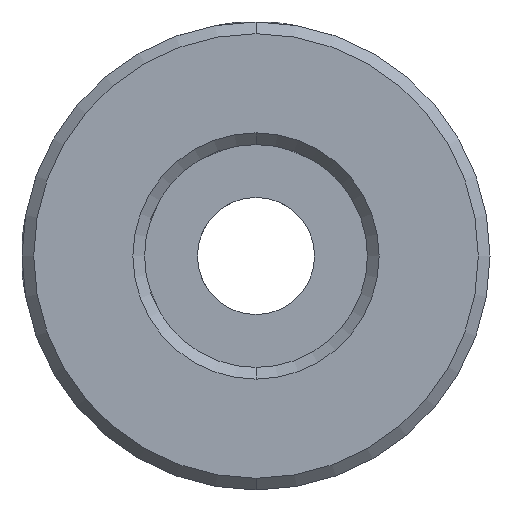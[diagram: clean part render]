
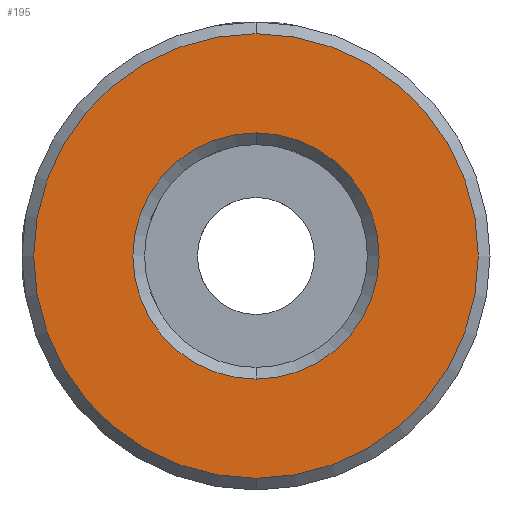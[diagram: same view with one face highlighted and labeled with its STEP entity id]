
A CAD part, front view. The second image highlights one B-rep face of the part: STEP entity #195.
In plain terms, the highlighted planar face has unit normal (0, -1, 0).
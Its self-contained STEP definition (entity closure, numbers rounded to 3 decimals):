
#51 = DIRECTION ( 'NONE',  ( 0., 1., 0. ) ) ;
#84 = ORIENTED_EDGE ( 'NONE', *, *, #1464, .T. ) ;
#145 = ORIENTED_EDGE ( 'NONE', *, *, #180, .T. ) ;
#180 = EDGE_CURVE ( 'NONE', #2382, #1536, #706, .T. ) ;
#195 = ADVANCED_FACE ( 'NONE', ( #1961, #1726 ), #255, .F. ) ;
#255 = PLANE ( 'NONE',  #2112 ) ;
#376 = CIRCLE ( 'NONE', #3254, 5.263 ) ;
#410 = CARTESIAN_POINT ( 'NONE',  ( -10.188, -0.277, -5.217 ) ) ;
#546 = CARTESIAN_POINT ( 'NONE',  ( -10.188, -0.277, 0.046 ) ) ;
#603 = DIRECTION ( 'NONE',  ( 0., 0., 1. ) ) ;
#660 = CIRCLE ( 'NONE', #2845, 9.5 ) ;
#706 = CIRCLE ( 'NONE', #2769, 5.263 ) ;
#737 = CARTESIAN_POINT ( 'NONE',  ( -10.188, -0.277, 9.546 ) ) ;
#941 = EDGE_LOOP ( 'NONE', ( #2287, #1858 ) ) ;
#955 = EDGE_CURVE ( 'NONE', #1695, #1568, #660, .T. ) ;
#1185 = DIRECTION ( 'NONE',  ( 0., -1., 0. ) ) ;
#1464 = EDGE_CURVE ( 'NONE', #1536, #2382, #376, .T. ) ;
#1503 = EDGE_LOOP ( 'NONE', ( #84, #145 ) ) ;
#1536 = VERTEX_POINT ( 'NONE', #410 ) ;
#1566 = CARTESIAN_POINT ( 'NONE',  ( -10.188, -0.277, 5.308 ) ) ;
#1568 = VERTEX_POINT ( 'NONE', #737 ) ;
#1695 = VERTEX_POINT ( 'NONE', #2265 ) ;
#1704 = DIRECTION ( 'NONE',  ( 0., 0., 1. ) ) ;
#1726 = FACE_BOUND ( 'NONE', #1503, .T. ) ;
#1742 = DIRECTION ( 'NONE',  ( 0., 1., 0. ) ) ;
#1799 = EDGE_CURVE ( 'NONE', #1568, #1695, #2890, .T. ) ;
#1858 = ORIENTED_EDGE ( 'NONE', *, *, #955, .T. ) ;
#1955 = DIRECTION ( 'NONE',  ( 0., -1., 0. ) ) ;
#1961 = FACE_OUTER_BOUND ( 'NONE', #941, .T. ) ;
#2062 = CARTESIAN_POINT ( 'NONE',  ( -10.188, -0.277, 0.046 ) ) ;
#2112 = AXIS2_PLACEMENT_3D ( 'NONE', #546, #2233, #1704 ) ;
#2228 = CARTESIAN_POINT ( 'NONE',  ( -10.188, -0.277, 0.046 ) ) ;
#2233 = DIRECTION ( 'NONE',  ( 0., 1., 0. ) ) ;
#2249 = DIRECTION ( 'NONE',  ( 0., 0., 1. ) ) ;
#2265 = CARTESIAN_POINT ( 'NONE',  ( -10.188, -0.277, -9.454 ) ) ;
#2287 = ORIENTED_EDGE ( 'NONE', *, *, #1799, .T. ) ;
#2382 = VERTEX_POINT ( 'NONE', #1566 ) ;
#2503 = CARTESIAN_POINT ( 'NONE',  ( -10.188, -0.277, 0.046 ) ) ;
#2572 = DIRECTION ( 'NONE',  ( 0., 0., 1. ) ) ;
#2644 = CARTESIAN_POINT ( 'NONE',  ( -10.188, -0.277, 0.046 ) ) ;
#2649 = AXIS2_PLACEMENT_3D ( 'NONE', #2228, #1955, #2249 ) ;
#2769 = AXIS2_PLACEMENT_3D ( 'NONE', #2503, #51, #603 ) ;
#2845 = AXIS2_PLACEMENT_3D ( 'NONE', #2062, #1185, #2572 ) ;
#2890 = CIRCLE ( 'NONE', #2649, 9.5 ) ;
#3254 = AXIS2_PLACEMENT_3D ( 'NONE', #2644, #1742, #3425 ) ;
#3425 = DIRECTION ( 'NONE',  ( 0., 0., 1. ) ) ;
